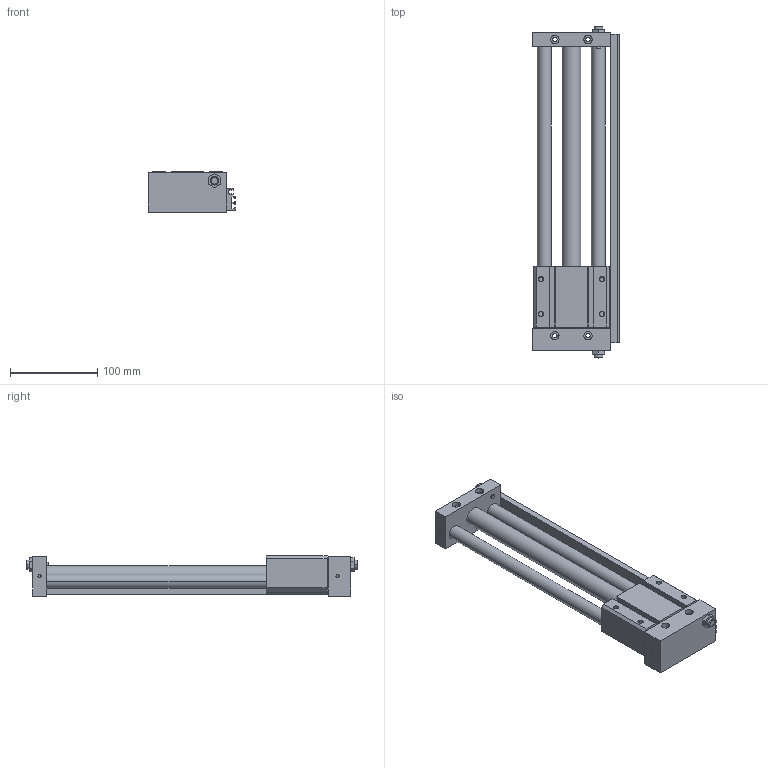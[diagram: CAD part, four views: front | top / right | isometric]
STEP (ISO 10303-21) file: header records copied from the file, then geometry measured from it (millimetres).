
FILE_DESCRIPTION((''),'2;1');
FILE_NAME('C:\Documents and Settings\Administrator\桌面\GYS\GYS20\GYSR20X250.stp','2012-03-06T20:22:09',('Administrator'),(''),'Autodesk Inventor 8','Autodesk Inventor 8','');
FILE_SCHEMA(('AUTOMOTIVE_DESIGN { 1 0 10303 214 1 1 1 1 }'));
Length unit declared in the file: millimetre
Products named in the file (3): GYSR20X250; GYS20X250; GYS20160X250
Assembly tree (2 placements, depth 2):
  GYSR20X250
    GYS20X250
    GYS20160X250
Bounding box: 100.5 x 381 x 46 mm (x, y, z)
Volume: 665218 mm3; surface area: 140609.3 mm2
Topology: 2 solids, 2 shells, 243 faces, 626 edges, 408 vertices
Faces by surface type: plane 133, cylinder 76, cone 28, bspline 6
Entity records: 7564 total; most frequent: CARTESIAN_POINT 1356, DIRECTION 1306, ORIENTED_EDGE 1252, EDGE_CURVE 626, AXIS2_PLACEMENT_3D 438, VECTOR 430, LINE 430, VERTEX_POINT 408
